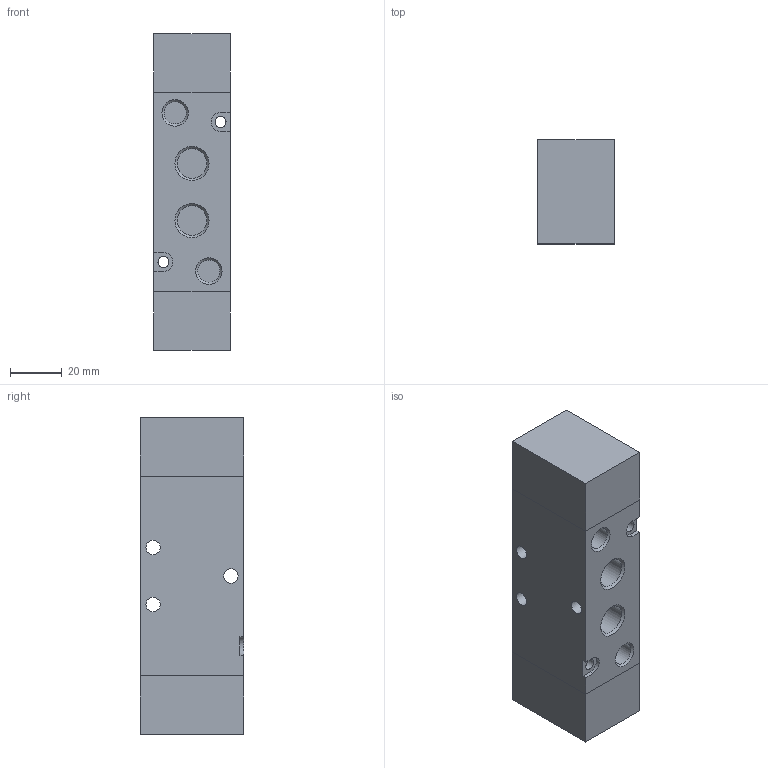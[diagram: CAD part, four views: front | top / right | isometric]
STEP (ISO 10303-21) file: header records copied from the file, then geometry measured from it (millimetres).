
FILE_DESCRIPTION((''),'2;1');
FILE_NAME('I:\Area Tecnica\Disegni\VARIE-3D\Componenti\T200\T224\T224_52_11_1.stp','2009-07-01T08:36:18',('rivolro1'),(''),'Autodesk Inventor 2010','Autodesk Inventor 2010','');
FILE_SCHEMA(('AUTOMOTIVE_DESIGN { 1 0 10303 214 1 1 1 1 }'));
Length unit declared in the file: millimetre
Products named in the file (1): T224_52_11_1
Bounding box: 29.5 x 40 x 122 mm (x, y, z)
Volume: 134921.6 mm3; surface area: 28394.4 mm2
Topology: 3 solids, 3 shells, 52 faces, 110 edges, 71 vertices
Faces by surface type: plane 24, bspline 21, cylinder 7
Full cylindrical faces by diameter (mm): 4.25 x2, 5.5 x3
Entity records: 1552 total; most frequent: CARTESIAN_POINT 474, DIRECTION 190, ORIENTED_EDGE 182, EDGE_CURVE 91, EDGE_LOOP 88, VERTEX_POINT 71, AXIS2_PLACEMENT_3D 67, VECTOR 56
